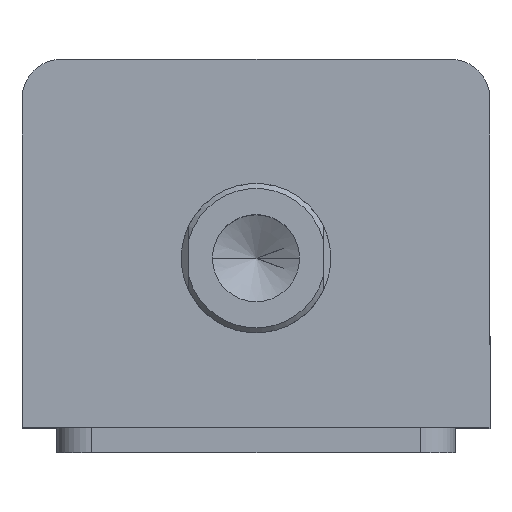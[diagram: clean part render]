
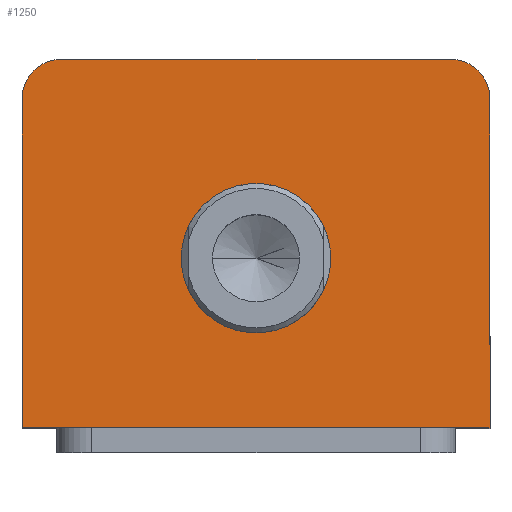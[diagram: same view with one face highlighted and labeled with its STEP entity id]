
A CAD part, top view. The second image highlights one B-rep face of the part: STEP entity #1250.
In plain terms, the highlighted planar face has unit normal (0, 0, 1).
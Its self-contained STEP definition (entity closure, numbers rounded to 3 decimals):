
#35 = DIRECTION ( 'NONE',  ( 1., 0., 0. ) ) ;
#36 = DIRECTION ( 'NONE',  ( 0., 0., 1. ) ) ;
#38 = CARTESIAN_POINT ( 'NONE',  ( 39., 29., 150. ) ) ;
#94 = DIRECTION ( 'NONE',  ( 1., 0., 0. ) ) ;
#99 = CARTESIAN_POINT ( 'NONE',  ( 0., -3., 150. ) ) ;
#146 = DIRECTION ( 'NONE',  ( 1., 0., 0. ) ) ;
#148 = DIRECTION ( 'NONE',  ( 0., 0., 1. ) ) ;
#149 = DIRECTION ( 'NONE',  ( 0., 1., 0. ) ) ;
#150 = DIRECTION ( 'NONE',  ( 0., -1., 0. ) ) ;
#151 = CARTESIAN_POINT ( 'NONE',  ( -47., 37., 150. ) ) ;
#182 = CARTESIAN_POINT ( 'NONE',  ( -47., 37., 150. ) ) ;
#186 = DIRECTION ( 'NONE',  ( -1., 0., 0. ) ) ;
#199 = CARTESIAN_POINT ( 'NONE',  ( -47., -37., 150. ) ) ;
#202 = CARTESIAN_POINT ( 'NONE',  ( -39., 29., 150. ) ) ;
#203 = DIRECTION ( 'NONE',  ( 0., 0., 1. ) ) ;
#204 = DIRECTION ( 'NONE',  ( 1., 0., 0. ) ) ;
#232 = CARTESIAN_POINT ( 'NONE',  ( 47., 37., 150. ) ) ;
#237 = CIRCLE ( 'NONE', #467, 8. ) ;
#273 = EDGE_CURVE ( 'NONE', #2685, #2696, #2363, .T. ) ;
#285 = EDGE_CURVE ( 'NONE', #2732, #2744, #2337, .T. ) ;
#302 = EDGE_CURVE ( 'NONE', #2744, #2685, #237, .T. ) ;
#312 = EDGE_CURVE ( 'NONE', #2696, #2711, #2099, .T. ) ;
#318 = EDGE_CURVE ( 'NONE', #2680, #2732, #1021, .T. ) ;
#326 = EDGE_CURVE ( 'NONE', #2711, #2680, #2944, .T. ) ;
#335 = EDGE_CURVE ( 'NONE', #2111, #1391, #515, .T. ) ;
#467 = AXIS2_PLACEMENT_3D ( 'NONE', #38, #36, #35 ) ;
#475 = AXIS2_PLACEMENT_3D ( 'NONE', #202, #203, #204 ) ;
#480 = AXIS2_PLACEMENT_3D ( 'NONE', #99, #148, #94 ) ;
#515 = CIRCLE ( 'NONE', #480, 15. ) ;
#712 = FACE_BOUND ( 'NONE', #2811, .T. ) ;
#719 = FACE_OUTER_BOUND ( 'NONE', #2797, .T. ) ;
#831 = CIRCLE ( 'NONE', #1150, 15. ) ;
#1021 = LINE ( 'NONE', #199, #1331 ) ;
#1081 = AXIS2_PLACEMENT_3D ( 'NONE', #1570, #1576, #1577 ) ;
#1150 = AXIS2_PLACEMENT_3D ( 'NONE', #1834, #1835, #1836 ) ;
#1250 = ADVANCED_FACE ( 'NONE', ( #712, #719 ), #1567, .T. ) ;
#1331 = VECTOR ( 'NONE', #146, 1000. ) ;
#1391 = VERTEX_POINT ( 'NONE', #1816 ) ;
#1441 = EDGE_CURVE ( 'NONE', #1391, #2111, #831, .T. ) ;
#1462 = VECTOR ( 'NONE', #150, 1000. ) ;
#1511 = ORIENTED_EDGE ( 'NONE', *, *, #318, .T. ) ;
#1512 = ORIENTED_EDGE ( 'NONE', *, *, #326, .T. ) ;
#1567 = PLANE ( 'NONE',  #1081 ) ;
#1570 = CARTESIAN_POINT ( 'NONE',  ( 0., 0., 150. ) ) ;
#1576 = DIRECTION ( 'NONE',  ( 0., 0., 1. ) ) ;
#1577 = DIRECTION ( 'NONE',  ( 1., 0., 0. ) ) ;
#1816 = CARTESIAN_POINT ( 'NONE',  ( -15., -3., 150. ) ) ;
#1834 = CARTESIAN_POINT ( 'NONE',  ( 0., -3., 150. ) ) ;
#1835 = DIRECTION ( 'NONE',  ( 0., 0., 1. ) ) ;
#1836 = DIRECTION ( 'NONE',  ( 1., 0., 0. ) ) ;
#1839 = CARTESIAN_POINT ( 'NONE',  ( 15., -3., 150. ) ) ;
#1900 = CARTESIAN_POINT ( 'NONE',  ( 39., 37., 150. ) ) ;
#1902 = CARTESIAN_POINT ( 'NONE',  ( -47., -37., 150. ) ) ;
#1916 = CARTESIAN_POINT ( 'NONE',  ( -39., 37., 150. ) ) ;
#1931 = CARTESIAN_POINT ( 'NONE',  ( -47., 29., 150. ) ) ;
#1944 = CARTESIAN_POINT ( 'NONE',  ( 47., 29., 150. ) ) ;
#1951 = CARTESIAN_POINT ( 'NONE',  ( 47., -37., 150. ) ) ;
#2099 = CIRCLE ( 'NONE', #475, 8. ) ;
#2111 = VERTEX_POINT ( 'NONE', #1839 ) ;
#2181 = ORIENTED_EDGE ( 'NONE', *, *, #335, .F. ) ;
#2182 = ORIENTED_EDGE ( 'NONE', *, *, #1441, .F. ) ;
#2183 = ORIENTED_EDGE ( 'NONE', *, *, #273, .T. ) ;
#2184 = ORIENTED_EDGE ( 'NONE', *, *, #312, .T. ) ;
#2334 = VECTOR ( 'NONE', #149, 1000. ) ;
#2337 = LINE ( 'NONE', #232, #2334 ) ;
#2360 = VECTOR ( 'NONE', #186, 1000. ) ;
#2363 = LINE ( 'NONE', #182, #2360 ) ;
#2680 = VERTEX_POINT ( 'NONE', #1902 ) ;
#2685 = VERTEX_POINT ( 'NONE', #1900 ) ;
#2696 = VERTEX_POINT ( 'NONE', #1916 ) ;
#2711 = VERTEX_POINT ( 'NONE', #1931 ) ;
#2732 = VERTEX_POINT ( 'NONE', #1951 ) ;
#2742 = ORIENTED_EDGE ( 'NONE', *, *, #285, .T. ) ;
#2744 = VERTEX_POINT ( 'NONE', #1944 ) ;
#2797 = EDGE_LOOP ( 'NONE', ( #2183, #2184, #1512, #1511, #2742, #2885 ) ) ;
#2811 = EDGE_LOOP ( 'NONE', ( #2181, #2182 ) ) ;
#2885 = ORIENTED_EDGE ( 'NONE', *, *, #302, .T. ) ;
#2944 = LINE ( 'NONE', #151, #1462 ) ;
